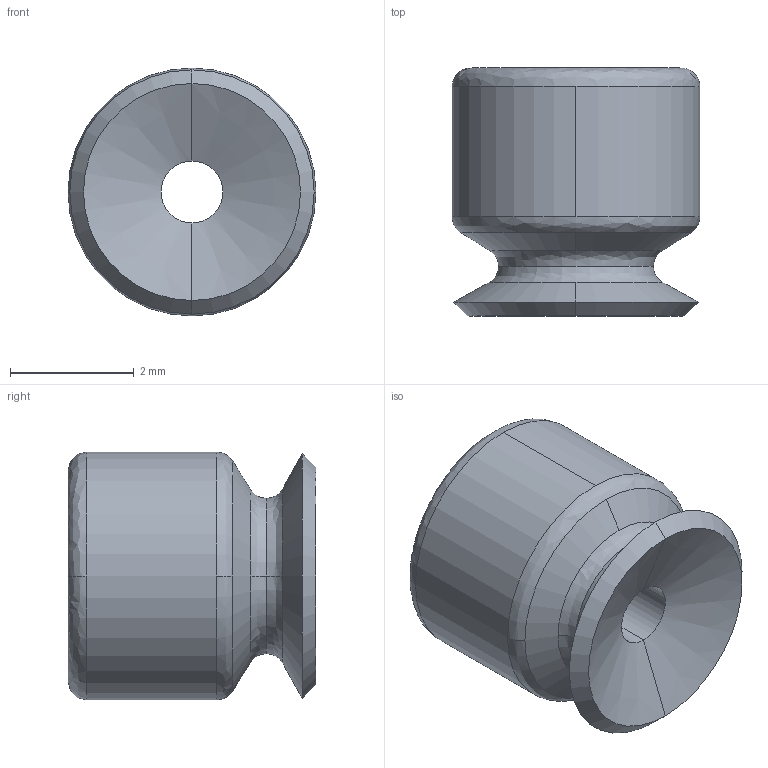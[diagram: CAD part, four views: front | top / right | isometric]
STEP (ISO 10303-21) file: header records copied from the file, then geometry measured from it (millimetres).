
FILE_DESCRIPTION (( 'STEP AP214' ), '1' );
FILE_NAME ('VS-PG3.5.STEP', '2019-11-13T07:37:57', ( '微软用户' ), ( '微软中国' ), 'SwSTEP 2.0', 'SolidWorks 2016', '' );
FILE_SCHEMA (( 'AUTOMOTIVE_DESIGN' ));
Length unit declared in the file: millimetre
Products named in the file (1): VS-PG3.5
Bounding box: 4 x 4 x 4 mm (x, y, z)
Volume: 28.7 mm3; surface area: 102.4 mm2
Topology: 1 solids, 1 shells, 33 faces, 82 edges, 52 vertices
Faces by surface type: bspline 14, cone 8, cylinder 8, plane 3
Entity records: 1536 total; most frequent: CARTESIAN_POINT 786, ORIENTED_EDGE 164, DIRECTION 144, EDGE_CURVE 82, AXIS2_PLACEMENT_3D 64, VERTEX_POINT 52, CIRCLE 44, EDGE_LOOP 36
